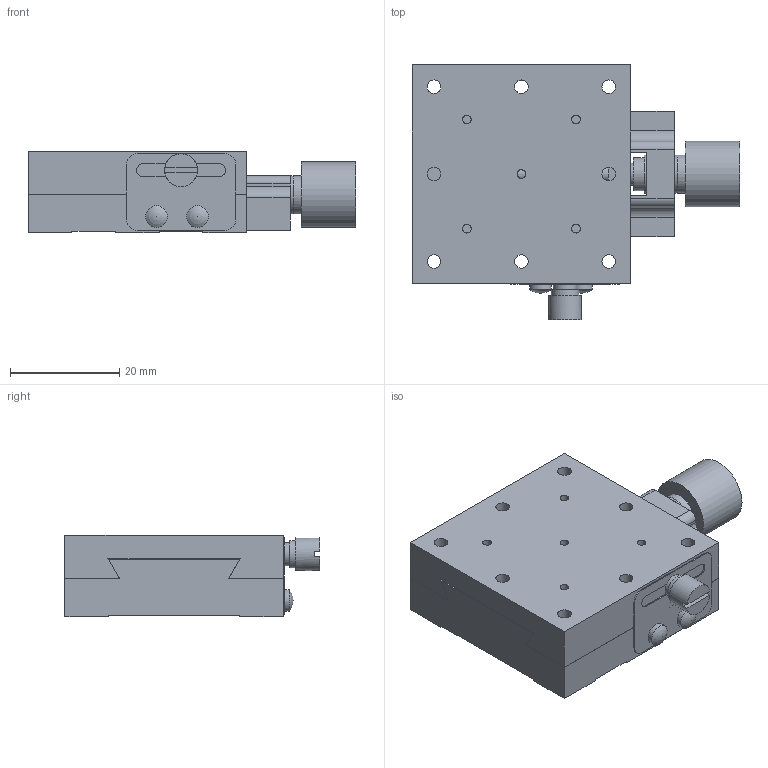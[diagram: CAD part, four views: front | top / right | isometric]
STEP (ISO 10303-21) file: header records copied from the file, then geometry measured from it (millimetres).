
FILE_DESCRIPTION( ( 'STEP AP203' ), '1' );
FILE_NAME( 'C:/3D-Trans/3D_B08-11R+090717.step', '2009-07-17T05:52:47', ( ' ' ), ( ' ' ), 'XStep 1.0', ' ', ' ' );
FILE_SCHEMA( ( 'CONFIG_CONTROL_DESIGN' ) );
Length unit declared in the file: millimetre
Products named in the file (2): 1; 2
Bounding box: 60 x 46.85 x 15 mm (x, y, z)
Volume: 23876 mm3; surface area: 13396.7 mm2
Topology: 2 solids, 6 shells, 171 faces, 484 edges, 334 vertices
Faces by surface type: plane 103, cylinder 65, sphere 2, cone 1
Full cylindrical faces by diameter (mm): 1.6 x5, 2 x1, 2.2 x1, 2.5 x18, 3 x4, 3.2 x2, 3.5 x4, 4 x3, 4.3 x1, 4.5 x2, 5 x1, 6 x2, 6.5 x4, 7 x4, 12 x1
Entity records: 5388 total; most frequent: CARTESIAN_POINT 1074, DIRECTION 864, ORIENTED_EDGE 782, EDGE_CURVE 391, AXIS2_PLACEMENT_3D 304, VERTEX_POINT 298, EDGE_LOOP 292, LINE 256
